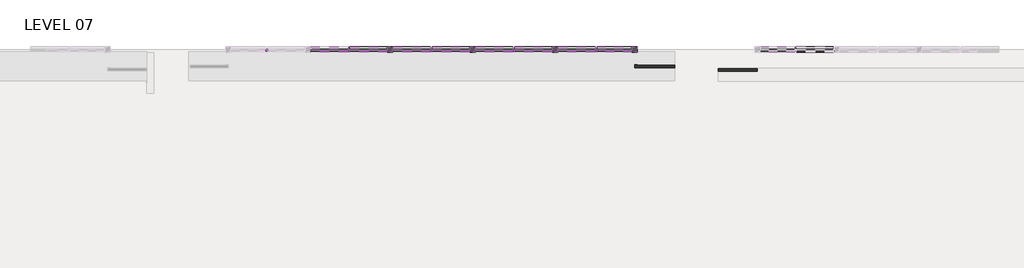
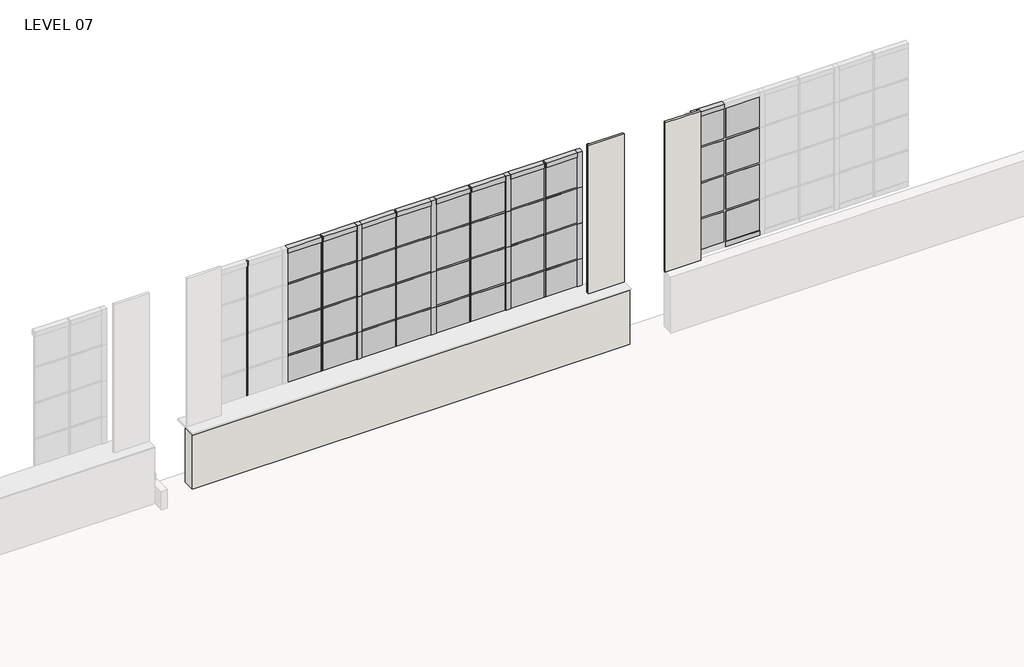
# One storey, part 9 of 15: 77 members, 40 plates, 4 walls.
"""IFC4 building model written with IfcOpenShell, lengths in millimetres."""

from ifc_helpers import new_model, si_unit, frame, origin, place, context, project, spatial, polyline, outline, extrude, faceted_brep, transform, mapped, element, save
from components import member_d9fe2114, member_fd592df6, member_78bb2ef1, member_40290cd5, member_ba51e770, member_6e5aab5d, member_bacafba3, member_a6d649dc, system_panel_glazed_84a10c8e, system_panel_glazed_44697018, system_panel_glazed_99b9b709, system_panel_glazed_bf1454fd, system_panel_glazed_f5a07ad7, system_panel_glazed_70237ed9

model = new_model("IFC4")

# Units and contexts
model_context = context("Model", 3, world=origin())
ifc_project = project(units=[si_unit("LENGTHUNIT", "METRE", prefix="MILLI")], contexts=[model_context])

# Site, building, storey
site = spatial("IfcSite", under=ifc_project)
building = spatial("IfcBuilding", under=site)
storey = spatial("IfcBuildingStorey", under=building, Name="LEVEL 07", Elevation=20802.6)

# Members
placement = place(None, origin())
member_shape = member_d9fe2114(model_context)
element("IfcMember", 1, ObjectType="Rectangular Mullion : 1\" x 1\" - Butt Joint", at=placement, inside=storey, context=model_context, shape_type="MappedRepresentation", body=[
    mapped(member_shape, transform((-27080.6521217, -412.75, 23342.6), x_axis=(0.0, 0.0, 1.0), y_axis=(0.0, -1.0, 0.0), z_axis=(1.0, 0.0, 0.0))),
])
element("IfcMember", 2, ObjectType="Rectangular Mullion : 1\" x 1\" - Butt Joint", at=placement, inside=storey, context=model_context, shape_type="MappedRepresentation", body=[
    mapped(member_shape, transform((-25932.5721217, -412.75, 23342.6), x_axis=(0.0, 0.0, 1.0), y_axis=(0.0, -1.0, 0.0), z_axis=(1.0, 0.0, 0.0))),
])
element("IfcMember", 3, ObjectType="Rectangular Mullion : 1\" x 1\" - Butt Joint", at=placement, inside=storey, context=model_context, shape_type="MappedRepresentation", body=[
    mapped(member_shape, transform((-24784.4921217, -412.75, 23342.6), x_axis=(0.0, 0.0, 1.0), y_axis=(0.0, -1.0, 0.0), z_axis=(1.0, 0.0, 0.0))),
])
element("IfcMember", 4, ObjectType="Rectangular Mullion : 1\" x 1\" - Butt Joint", at=placement, inside=storey, context=model_context, shape_type="MappedRepresentation", body=[
    mapped(member_shape, transform((-27629.2921217, -412.75, 23342.6), x_axis=(0.0, 0.0, 1.0), y_axis=(0.0, -1.0, 0.0), z_axis=(1.0, 0.0, 0.0))),
])
element("IfcMember", 5, ObjectType="Rectangular Mullion : 1\" x 1\" - Butt Joint", at=placement, inside=storey, context=model_context, shape_type="MappedRepresentation", body=[
    mapped(member_shape, transform((-26481.2121217, -412.75, 23342.6), x_axis=(0.0, 0.0, 1.0), y_axis=(0.0, -1.0, 0.0), z_axis=(1.0, 0.0, 0.0))),
])
element("IfcMember", 6, ObjectType="Rectangular Mullion : 1\" x 1\" - Butt Joint", at=placement, inside=storey, context=model_context, shape_type="MappedRepresentation", body=[
    mapped(member_shape, transform((-25333.1321217, -412.75, 23342.6), x_axis=(0.0, 0.0, 1.0), y_axis=(0.0, -1.0, 0.0), z_axis=(1.0, 0.0, 0.0))),
])
element("IfcMember", 7, ObjectType="Rectangular Mullion : 1\" x 1\" - Butt Joint", at=placement, inside=storey, context=model_context, shape_type="MappedRepresentation", body=[
    mapped(member_shape, transform((-24185.0521217, -412.75, 23342.6), x_axis=(0.0, 0.0, 1.0), y_axis=(0.0, -1.0, 0.0), z_axis=(1.0, 0.0, 0.0))),
])
element("IfcMember", 8, ObjectType="Rectangular Mullion : 1\" x 1\" - Butt Joint", at=placement, inside=storey, context=model_context, shape_type="MappedRepresentation", body=[
    mapped(member_shape, transform((-27080.6521217, -412.75, 22758.4), x_axis=(0.0, 0.0, 1.0), y_axis=(0.0, -1.0, 0.0), z_axis=(1.0, 0.0, 0.0))),
])
element("IfcMember", 9, ObjectType="Rectangular Mullion : 1\" x 1\" - Butt Joint", at=placement, inside=storey, context=model_context, shape_type="MappedRepresentation", body=[
    mapped(member_shape, transform((-25932.5721217, -412.75, 22758.4), x_axis=(0.0, 0.0, 1.0), y_axis=(0.0, -1.0, 0.0), z_axis=(1.0, 0.0, 0.0))),
])
element("IfcMember", 10, ObjectType="Rectangular Mullion : 1\" x 1\" - Butt Joint", at=placement, inside=storey, context=model_context, shape_type="MappedRepresentation", body=[
    mapped(member_shape, transform((-24784.4921217, -412.75, 22758.4), x_axis=(0.0, 0.0, 1.0), y_axis=(0.0, -1.0, 0.0), z_axis=(1.0, 0.0, 0.0))),
])
element("IfcMember", 11, ObjectType="Rectangular Mullion : 1\" x 1\" - Butt Joint", at=placement, inside=storey, context=model_context, shape_type="MappedRepresentation", body=[
    mapped(member_shape, transform((-27629.2921217, -412.75, 22758.4), x_axis=(0.0, 0.0, 1.0), y_axis=(0.0, -1.0, 0.0), z_axis=(1.0, 0.0, 0.0))),
])
element("IfcMember", 12, ObjectType="Rectangular Mullion : 1\" x 1\" - Butt Joint", at=placement, inside=storey, context=model_context, shape_type="MappedRepresentation", body=[
    mapped(member_shape, transform((-26481.2121217, -412.75, 22758.4), x_axis=(0.0, 0.0, 1.0), y_axis=(0.0, -1.0, 0.0), z_axis=(1.0, 0.0, 0.0))),
])
element("IfcMember", 13, ObjectType="Rectangular Mullion : 1\" x 1\" - Butt Joint", at=placement, inside=storey, context=model_context, shape_type="MappedRepresentation", body=[
    mapped(member_shape, transform((-25333.1321217, -412.75, 22758.4), x_axis=(0.0, 0.0, 1.0), y_axis=(0.0, -1.0, 0.0), z_axis=(1.0, 0.0, 0.0))),
])
element("IfcMember", 14, ObjectType="Rectangular Mullion : 1\" x 1\" - Butt Joint", at=placement, inside=storey, context=model_context, shape_type="MappedRepresentation", body=[
    mapped(member_shape, transform((-24185.0521217, -412.75, 22758.4), x_axis=(0.0, 0.0, 1.0), y_axis=(0.0, -1.0, 0.0), z_axis=(1.0, 0.0, 0.0))),
])
element("IfcMember", 15, ObjectType="Rectangular Mullion : 1\" x 1\" - Butt Joint", at=placement, inside=storey, context=model_context, shape_type="MappedRepresentation", body=[
    mapped(member_shape, transform((-27080.6521217, -412.75, 22174.2), x_axis=(0.0, 0.0, 1.0), y_axis=(0.0, -1.0, 0.0), z_axis=(1.0, 0.0, 0.0))),
])
element("IfcMember", 16, ObjectType="Rectangular Mullion : 1\" x 1\" - Butt Joint", at=placement, inside=storey, context=model_context, shape_type="MappedRepresentation", body=[
    mapped(member_shape, transform((-25932.5721217, -412.75, 22174.2), x_axis=(0.0, 0.0, 1.0), y_axis=(0.0, -1.0, 0.0), z_axis=(1.0, 0.0, 0.0))),
])
element("IfcMember", 17, ObjectType="Rectangular Mullion : 1\" x 1\" - Butt Joint", at=placement, inside=storey, context=model_context, shape_type="MappedRepresentation", body=[
    mapped(member_shape, transform((-24784.4921217, -412.75, 22174.2), x_axis=(0.0, 0.0, 1.0), y_axis=(0.0, -1.0, 0.0), z_axis=(1.0, 0.0, 0.0))),
])
element("IfcMember", 18, ObjectType="Rectangular Mullion : 1\" x 1\" - Butt Joint", at=placement, inside=storey, context=model_context, shape_type="MappedRepresentation", body=[
    mapped(member_shape, transform((-27629.2921217, -412.75, 22174.2), x_axis=(0.0, 0.0, 1.0), y_axis=(0.0, -1.0, 0.0), z_axis=(1.0, 0.0, 0.0))),
])
element("IfcMember", 19, ObjectType="Rectangular Mullion : 1\" x 1\" - Butt Joint", at=placement, inside=storey, context=model_context, shape_type="MappedRepresentation", body=[
    mapped(member_shape, transform((-26481.2121217, -412.75, 22174.2), x_axis=(0.0, 0.0, 1.0), y_axis=(0.0, -1.0, 0.0), z_axis=(1.0, 0.0, 0.0))),
])
element("IfcMember", 20, ObjectType="Rectangular Mullion : 1\" x 1\" - Butt Joint", at=placement, inside=storey, context=model_context, shape_type="MappedRepresentation", body=[
    mapped(member_shape, transform((-25333.1321217, -412.75, 22174.2), x_axis=(0.0, 0.0, 1.0), y_axis=(0.0, -1.0, 0.0), z_axis=(1.0, 0.0, 0.0))),
])
element("IfcMember", 21, ObjectType="Rectangular Mullion : 1\" x 1\" - Butt Joint", at=placement, inside=storey, context=model_context, shape_type="MappedRepresentation", body=[
    mapped(member_shape, transform((-24185.0521217, -412.75, 22174.2), x_axis=(0.0, 0.0, 1.0), y_axis=(0.0, -1.0, 0.0), z_axis=(1.0, 0.0, 0.0))),
])
member_2_shape = member_fd592df6(model_context)
element("IfcMember", 22, ObjectType="Rectangular Mullion : 1\" x 1\" - Butt Joint", at=placement, inside=storey, context=model_context, shape_type="MappedRepresentation", body=[
    mapped(member_2_shape, transform((-23674.5121217, -412.75, 23342.6), x_axis=(0.0, 0.0, 1.0), y_axis=(0.0, -1.0, 0.0), z_axis=(1.0, 0.0, 0.0))),
])
element("IfcMember", 23, ObjectType="Rectangular Mullion : 1\" x 1\" - Butt Joint", at=placement, inside=storey, context=model_context, shape_type="MappedRepresentation", body=[
    mapped(member_2_shape, transform((-23674.5121217, -412.75, 22758.4), x_axis=(0.0, 0.0, 1.0), y_axis=(0.0, -1.0, 0.0), z_axis=(1.0, 0.0, 0.0))),
])
element("IfcMember", 24, ObjectType="Rectangular Mullion : 1\" x 1\" - Butt Joint", at=placement, inside=storey, context=model_context, shape_type="MappedRepresentation", body=[
    mapped(member_2_shape, transform((-23674.5121217, -412.75, 22174.2), x_axis=(0.0, 0.0, 1.0), y_axis=(0.0, -1.0, 0.0), z_axis=(1.0, 0.0, 0.0))),
])
member_3_shape = member_78bb2ef1(model_context)
element("IfcMember", 25, ObjectType="Rectangular Mullion : 1\" x 1\" - Butt Joint", at=placement, inside=storey, context=model_context, shape_type="MappedRepresentation", body=[
    mapped(member_3_shape, transform((-24172.3521217, -412.75, 23342.6), x_axis=(1.0, 0.0, 0.0), y_axis=(0.0, -1.0, 0.0), z_axis=(0.0, 0.0, -1.0))),
])
element("IfcMember", 26, ObjectType="Rectangular Mullion : 1\" x 1\" - Butt Joint", at=placement, inside=storey, context=model_context, shape_type="MappedRepresentation", body=[
    mapped(member_3_shape, transform((-25320.4321217, -412.75, 23342.6), x_axis=(1.0, 0.0, 0.0), y_axis=(0.0, -1.0, 0.0), z_axis=(0.0, 0.0, -1.0))),
])
element("IfcMember", 27, ObjectType="Rectangular Mullion : 1\" x 1\" - Butt Joint", at=placement, inside=storey, context=model_context, shape_type="MappedRepresentation", body=[
    mapped(member_3_shape, transform((-26468.5121217, -412.75, 23342.6), x_axis=(1.0, 0.0, 0.0), y_axis=(0.0, -1.0, 0.0), z_axis=(0.0, 0.0, -1.0))),
])
element("IfcMember", 28, ObjectType="Rectangular Mullion : 1\" x 1\" - Butt Joint", at=placement, inside=storey, context=model_context, shape_type="MappedRepresentation", body=[
    mapped(member_3_shape, transform((-27616.5921217, -412.75, 23342.6), x_axis=(1.0, 0.0, 0.0), y_axis=(0.0, -1.0, 0.0), z_axis=(0.0, 0.0, -1.0))),
])
element("IfcMember", 29, ObjectType="Rectangular Mullion : 1\" x 1\" - Butt Joint", at=placement, inside=storey, context=model_context, shape_type="MappedRepresentation", body=[
    mapped(member_3_shape, transform((-28764.6721217, -412.75, 23342.6), x_axis=(1.0, 0.0, 0.0), y_axis=(0.0, -1.0, 0.0), z_axis=(0.0, 0.0, -1.0))),
])
element("IfcMember", 30, ObjectType="Rectangular Mullion : 1\" x 1\" - Butt Joint", at=placement, inside=storey, context=model_context, shape_type="MappedRepresentation", body=[
    mapped(member_3_shape, transform((-24172.3521217, -412.75, 22174.2), x_axis=(1.0, 0.0, 0.0), y_axis=(0.0, -1.0, 0.0), z_axis=(0.0, 0.0, -1.0))),
])
element("IfcMember", 31, ObjectType="Rectangular Mullion : 1\" x 1\" - Butt Joint", at=placement, inside=storey, context=model_context, shape_type="MappedRepresentation", body=[
    mapped(member_3_shape, transform((-24172.3521217, -412.75, 22758.4), x_axis=(1.0, 0.0, 0.0), y_axis=(0.0, -1.0, 0.0), z_axis=(0.0, 0.0, -1.0))),
])
element("IfcMember", 32, ObjectType="Rectangular Mullion : 1\" x 1\" - Butt Joint", at=placement, inside=storey, context=model_context, shape_type="MappedRepresentation", body=[
    mapped(member_3_shape, transform((-25320.4321217, -412.75, 22174.2), x_axis=(1.0, 0.0, 0.0), y_axis=(0.0, -1.0, 0.0), z_axis=(0.0, 0.0, -1.0))),
])
element("IfcMember", 33, ObjectType="Rectangular Mullion : 1\" x 1\" - Butt Joint", at=placement, inside=storey, context=model_context, shape_type="MappedRepresentation", body=[
    mapped(member_3_shape, transform((-25320.4321217, -412.75, 22758.4), x_axis=(1.0, 0.0, 0.0), y_axis=(0.0, -1.0, 0.0), z_axis=(0.0, 0.0, -1.0))),
])
element("IfcMember", 34, ObjectType="Rectangular Mullion : 1\" x 1\" - Butt Joint", at=placement, inside=storey, context=model_context, shape_type="MappedRepresentation", body=[
    mapped(member_3_shape, transform((-26468.5121217, -412.75, 22174.2), x_axis=(1.0, 0.0, 0.0), y_axis=(0.0, -1.0, 0.0), z_axis=(0.0, 0.0, -1.0))),
])
element("IfcMember", 35, ObjectType="Rectangular Mullion : 1\" x 1\" - Butt Joint", at=placement, inside=storey, context=model_context, shape_type="MappedRepresentation", body=[
    mapped(member_3_shape, transform((-26468.5121217, -412.75, 22758.4), x_axis=(1.0, 0.0, 0.0), y_axis=(0.0, -1.0, 0.0), z_axis=(0.0, 0.0, -1.0))),
])
element("IfcMember", 36, ObjectType="Rectangular Mullion : 1\" x 1\" - Butt Joint", at=placement, inside=storey, context=model_context, shape_type="MappedRepresentation", body=[
    mapped(member_3_shape, transform((-27616.5921217, -412.75, 22174.2), x_axis=(1.0, 0.0, 0.0), y_axis=(0.0, -1.0, 0.0), z_axis=(0.0, 0.0, -1.0))),
])
element("IfcMember", 37, ObjectType="Rectangular Mullion : 1\" x 1\" - Butt Joint", at=placement, inside=storey, context=model_context, shape_type="MappedRepresentation", body=[
    mapped(member_3_shape, transform((-27616.5921217, -412.75, 22758.4), x_axis=(1.0, 0.0, 0.0), y_axis=(0.0, -1.0, 0.0), z_axis=(0.0, 0.0, -1.0))),
])
element("IfcMember", 38, ObjectType="Rectangular Mullion : 1\" x 1\" - Butt Joint", at=placement, inside=storey, context=model_context, shape_type="MappedRepresentation", body=[
    mapped(member_3_shape, transform((-28764.6721217, -412.75, 22174.2), x_axis=(1.0, 0.0, 0.0), y_axis=(0.0, -1.0, 0.0), z_axis=(0.0, 0.0, -1.0))),
])
element("IfcMember", 39, ObjectType="Rectangular Mullion : 1\" x 1\" - Butt Joint", at=placement, inside=storey, context=model_context, shape_type="MappedRepresentation", body=[
    mapped(member_3_shape, transform((-28764.6721217, -412.75, 22758.4), x_axis=(1.0, 0.0, 0.0), y_axis=(0.0, -1.0, 0.0), z_axis=(0.0, 0.0, -1.0))),
])
element("IfcMember", 40, ObjectType="Rectangular Mullion : 1\" x 1\" - Butt Joint", at=placement, inside=storey, context=model_context, shape_type="MappedRepresentation", body=[
    mapped(member_3_shape, transform((-24172.3521217, -412.75, 21590.0), x_axis=(1.0, 0.0, 0.0), y_axis=(0.0, -1.0, 0.0), z_axis=(0.0, 0.0, -1.0))),
])
element("IfcMember", 41, ObjectType="Rectangular Mullion : 1\" x 1\" - Butt Joint", at=placement, inside=storey, context=model_context, shape_type="MappedRepresentation", body=[
    mapped(member_3_shape, transform((-25320.4321217, -412.75, 21590.0), x_axis=(1.0, 0.0, 0.0), y_axis=(0.0, -1.0, 0.0), z_axis=(0.0, 0.0, -1.0))),
])
element("IfcMember", 42, ObjectType="Rectangular Mullion : 1\" x 1\" - Butt Joint", at=placement, inside=storey, context=model_context, shape_type="MappedRepresentation", body=[
    mapped(member_3_shape, transform((-26468.5121217, -412.75, 21590.0), x_axis=(1.0, 0.0, 0.0), y_axis=(0.0, -1.0, 0.0), z_axis=(0.0, 0.0, -1.0))),
])
element("IfcMember", 43, ObjectType="Rectangular Mullion : 1\" x 1\" - Butt Joint", at=placement, inside=storey, context=model_context, shape_type="MappedRepresentation", body=[
    mapped(member_3_shape, transform((-27616.5921217, -412.75, 21590.0), x_axis=(1.0, 0.0, 0.0), y_axis=(0.0, -1.0, 0.0), z_axis=(0.0, 0.0, -1.0))),
])
element("IfcMember", 44, ObjectType="Rectangular Mullion : 1\" x 1\" - Butt Joint", at=placement, inside=storey, context=model_context, shape_type="MappedRepresentation", body=[
    mapped(member_3_shape, transform((-28764.6721217, -412.75, 21590.0), x_axis=(1.0, 0.0, 0.0), y_axis=(0.0, -1.0, 0.0), z_axis=(0.0, 0.0, -1.0))),
])
member_4_shape = member_40290cd5(model_context)
element("IfcMember", 45, ObjectType="Rectangular Mullion : 3\" x 3\" Window Jamb", at=placement, inside=storey, context=model_context, shape_type="MappedRepresentation", body=[
    mapped(member_4_shape, transform((-21405.0571519, -412.75, 23926.8), x_axis=(0.0, 0.0, 1.0), y_axis=(0.0, -1.0, 0.0), z_axis=(1.0, 0.0, 0.0))),
])
member_5_shape = member_ba51e770(model_context)
element("IfcMember", 46, ObjectType="Rectangular Mullion : 3\" x 3\" Window Jamb", at=placement, inside=storey, context=model_context, shape_type="MappedRepresentation", body=[
    mapped(member_5_shape, transform((-23674.5121217, -412.75, 23926.8), x_axis=(0.0, 0.0, 1.0), y_axis=(0.0, -1.0, 0.0), z_axis=(1.0, 0.0, 0.0))),
])
member_6_shape = member_6e5aab5d(model_context)
element("IfcMember", 47, ObjectType="Rectangular Mullion : 3\" x 3\" Window Jamb", at=placement, inside=storey, context=model_context, shape_type="MappedRepresentation", body=[
    mapped(member_6_shape, transform((-27629.2921217, -412.75, 23926.8), x_axis=(0.0, 0.0, 1.0), y_axis=(0.0, -1.0, 0.0), z_axis=(1.0, 0.0, 0.0))),
])
element("IfcMember", 48, ObjectType="Rectangular Mullion : 3\" x 3\" Window Jamb", at=placement, inside=storey, context=model_context, shape_type="MappedRepresentation", body=[
    mapped(member_6_shape, transform((-26481.2121217, -412.75, 23926.8), x_axis=(0.0, 0.0, 1.0), y_axis=(0.0, -1.0, 0.0), z_axis=(1.0, 0.0, 0.0))),
])
element("IfcMember", 49, ObjectType="Rectangular Mullion : 3\" x 3\" Window Jamb", at=placement, inside=storey, context=model_context, shape_type="MappedRepresentation", body=[
    mapped(member_6_shape, transform((-25333.1321217, -412.75, 23926.8), x_axis=(0.0, 0.0, 1.0), y_axis=(0.0, -1.0, 0.0), z_axis=(1.0, 0.0, 0.0))),
])
element("IfcMember", 50, ObjectType="Rectangular Mullion : 3\" x 3\" Window Jamb", at=placement, inside=storey, context=model_context, shape_type="MappedRepresentation", body=[
    mapped(member_6_shape, transform((-24185.0521217, -412.75, 23926.8), x_axis=(0.0, 0.0, 1.0), y_axis=(0.0, -1.0, 0.0), z_axis=(1.0, 0.0, 0.0))),
])
element("IfcMember", 51, ObjectType="Rectangular Mullion : 3\" x 3\" Window Jamb", at=placement, inside=storey, context=model_context, shape_type="MappedRepresentation", body=[
    mapped(member_6_shape, transform((-27080.6521217, -412.75, 23926.8), x_axis=(0.0, 0.0, 1.0), y_axis=(0.0, -1.0, 0.0), z_axis=(1.0, 0.0, 0.0))),
])
element("IfcMember", 52, ObjectType="Rectangular Mullion : 3\" x 3\" Window Jamb", at=placement, inside=storey, context=model_context, shape_type="MappedRepresentation", body=[
    mapped(member_6_shape, transform((-25932.5721217, -412.75, 23926.8), x_axis=(0.0, 0.0, 1.0), y_axis=(0.0, -1.0, 0.0), z_axis=(1.0, 0.0, 0.0))),
])
element("IfcMember", 53, ObjectType="Rectangular Mullion : 3\" x 3\" Window Jamb", at=placement, inside=storey, context=model_context, shape_type="MappedRepresentation", body=[
    mapped(member_6_shape, transform((-24784.4921217, -412.75, 23926.8), x_axis=(0.0, 0.0, 1.0), y_axis=(0.0, -1.0, 0.0), z_axis=(1.0, 0.0, 0.0))),
])
element("IfcMember", 54, ObjectType="Rectangular Mullion : 3\" x 3\" Window Jamb", at=placement, inside=storey, context=model_context, shape_type="MappedRepresentation", body=[
    mapped(member_6_shape, transform((-21379.6571519, -412.75, 21590.0), x_axis=(0.0, 0.0, -1.0), y_axis=(0.0, -1.0, 0.0), z_axis=(-1.0, 0.0, 0.0))),
])
element("IfcMember", 55, ObjectType="Rectangular Mullion : 3\" x 3\" Window Jamb", at=placement, inside=storey, context=model_context, shape_type="MappedRepresentation", body=[
    mapped(member_6_shape, transform((-27603.8921217, -412.75, 21590.0), x_axis=(0.0, 0.0, -1.0), y_axis=(0.0, -1.0, 0.0), z_axis=(-1.0, 0.0, 0.0))),
])
element("IfcMember", 56, ObjectType="Rectangular Mullion : 3\" x 3\" Window Jamb", at=placement, inside=storey, context=model_context, shape_type="MappedRepresentation", body=[
    mapped(member_6_shape, transform((-26455.8121217, -412.75, 21590.0), x_axis=(0.0, 0.0, -1.0), y_axis=(0.0, -1.0, 0.0), z_axis=(-1.0, 0.0, 0.0))),
])
element("IfcMember", 57, ObjectType="Rectangular Mullion : 3\" x 3\" Window Jamb", at=placement, inside=storey, context=model_context, shape_type="MappedRepresentation", body=[
    mapped(member_6_shape, transform((-25307.7321217, -412.75, 21590.0), x_axis=(0.0, 0.0, -1.0), y_axis=(0.0, -1.0, 0.0), z_axis=(-1.0, 0.0, 0.0))),
])
element("IfcMember", 58, ObjectType="Rectangular Mullion : 3\" x 3\" Window Jamb", at=placement, inside=storey, context=model_context, shape_type="MappedRepresentation", body=[
    mapped(member_6_shape, transform((-27004.4521217, -412.75, 21590.0), x_axis=(0.0, 0.0, -1.0), y_axis=(0.0, -1.0, 0.0), z_axis=(-1.0, 0.0, 0.0))),
])
element("IfcMember", 59, ObjectType="Rectangular Mullion : 3\" x 3\" Window Jamb", at=placement, inside=storey, context=model_context, shape_type="MappedRepresentation", body=[
    mapped(member_6_shape, transform((-25856.3721217, -412.75, 21590.0), x_axis=(0.0, 0.0, -1.0), y_axis=(0.0, -1.0, 0.0), z_axis=(-1.0, 0.0, 0.0))),
])
element("IfcMember", 60, ObjectType="Rectangular Mullion : 3\" x 3\" Window Jamb", at=placement, inside=storey, context=model_context, shape_type="MappedRepresentation", body=[
    mapped(member_6_shape, transform((-24708.2921217, -412.75, 21590.0), x_axis=(0.0, 0.0, -1.0), y_axis=(0.0, -1.0, 0.0), z_axis=(-1.0, 0.0, 0.0))),
])
element("IfcMember", 61, ObjectType="Rectangular Mullion : 3\" x 3\" Window Jamb", at=placement, inside=storey, context=model_context, shape_type="MappedRepresentation", body=[
    mapped(member_5_shape, transform((-24159.6521217, -412.75, 21590.0), x_axis=(0.0, 0.0, -1.0), y_axis=(0.0, -1.0, 0.0), z_axis=(-1.0, 0.0, 0.0))),
])
member_7_shape = member_bacafba3(model_context)
element("IfcMember", 62, ObjectType="Rectangular Mullion : 3\" x 3\" Window Jamb", at=placement, inside=storey, context=model_context, shape_type="MappedRepresentation", body=[
    mapped(member_7_shape, transform((-24746.3921217, -412.75, 23342.6), x_axis=(1.0, 0.0, 0.0), y_axis=(0.0, -1.0, 0.0), z_axis=(0.0, 0.0, -1.0))),
])
element("IfcMember", 63, ObjectType="Rectangular Mullion : 3\" x 3\" Window Jamb", at=placement, inside=storey, context=model_context, shape_type="MappedRepresentation", body=[
    mapped(member_7_shape, transform((-25894.4721217, -412.75, 23342.6), x_axis=(1.0, 0.0, 0.0), y_axis=(0.0, -1.0, 0.0), z_axis=(0.0, 0.0, -1.0))),
])
element("IfcMember", 64, ObjectType="Rectangular Mullion : 3\" x 3\" Window Jamb", at=placement, inside=storey, context=model_context, shape_type="MappedRepresentation", body=[
    mapped(member_7_shape, transform((-27042.5521217, -412.75, 23342.6), x_axis=(1.0, 0.0, 0.0), y_axis=(0.0, -1.0, 0.0), z_axis=(0.0, 0.0, -1.0))),
])
element("IfcMember", 65, ObjectType="Rectangular Mullion : 3\" x 3\" Window Jamb", at=placement, inside=storey, context=model_context, shape_type="MappedRepresentation", body=[
    mapped(member_7_shape, transform((-24746.3921217, -412.75, 22174.2), x_axis=(1.0, 0.0, 0.0), y_axis=(0.0, -1.0, 0.0), z_axis=(0.0, 0.0, -1.0))),
])
element("IfcMember", 66, ObjectType="Rectangular Mullion : 3\" x 3\" Window Jamb", at=placement, inside=storey, context=model_context, shape_type="MappedRepresentation", body=[
    mapped(member_7_shape, transform((-24746.3921217, -412.75, 22758.4), x_axis=(1.0, 0.0, 0.0), y_axis=(0.0, -1.0, 0.0), z_axis=(0.0, 0.0, -1.0))),
])
element("IfcMember", 67, ObjectType="Rectangular Mullion : 3\" x 3\" Window Jamb", at=placement, inside=storey, context=model_context, shape_type="MappedRepresentation", body=[
    mapped(member_7_shape, transform((-25894.4721217, -412.75, 22174.2), x_axis=(1.0, 0.0, 0.0), y_axis=(0.0, -1.0, 0.0), z_axis=(0.0, 0.0, -1.0))),
])
element("IfcMember", 68, ObjectType="Rectangular Mullion : 3\" x 3\" Window Jamb", at=placement, inside=storey, context=model_context, shape_type="MappedRepresentation", body=[
    mapped(member_7_shape, transform((-25894.4721217, -412.75, 22758.4), x_axis=(1.0, 0.0, 0.0), y_axis=(0.0, -1.0, 0.0), z_axis=(0.0, 0.0, -1.0))),
])
element("IfcMember", 69, ObjectType="Rectangular Mullion : 3\" x 3\" Window Jamb", at=placement, inside=storey, context=model_context, shape_type="MappedRepresentation", body=[
    mapped(member_7_shape, transform((-27042.5521217, -412.75, 22174.2), x_axis=(1.0, 0.0, 0.0), y_axis=(0.0, -1.0, 0.0), z_axis=(0.0, 0.0, -1.0))),
])
element("IfcMember", 70, ObjectType="Rectangular Mullion : 3\" x 3\" Window Jamb", at=placement, inside=storey, context=model_context, shape_type="MappedRepresentation", body=[
    mapped(member_7_shape, transform((-27042.5521217, -412.75, 22758.4), x_axis=(1.0, 0.0, 0.0), y_axis=(0.0, -1.0, 0.0), z_axis=(0.0, 0.0, -1.0))),
])
element("IfcMember", 71, ObjectType="Rectangular Mullion : 3\" x 3\" Window Jamb", at=placement, inside=storey, context=model_context, shape_type="MappedRepresentation", body=[
    mapped(member_7_shape, transform((-24746.3921217, -412.75, 21590.0), x_axis=(1.0, 0.0, 0.0), y_axis=(0.0, -1.0, 0.0), z_axis=(0.0, 0.0, -1.0))),
])
element("IfcMember", 72, ObjectType="Rectangular Mullion : 3\" x 3\" Window Jamb", at=placement, inside=storey, context=model_context, shape_type="MappedRepresentation", body=[
    mapped(member_7_shape, transform((-25894.4721217, -412.75, 21590.0), x_axis=(1.0, 0.0, 0.0), y_axis=(0.0, -1.0, 0.0), z_axis=(0.0, 0.0, -1.0))),
])
element("IfcMember", 73, ObjectType="Rectangular Mullion : 3\" x 3\" Window Jamb", at=placement, inside=storey, context=model_context, shape_type="MappedRepresentation", body=[
    mapped(member_7_shape, transform((-27042.5521217, -412.75, 21590.0), x_axis=(1.0, 0.0, 0.0), y_axis=(0.0, -1.0, 0.0), z_axis=(0.0, 0.0, -1.0))),
])
member_8_shape = member_a6d649dc(model_context)
element("IfcMember", 74, ObjectType="Rectangular Mullion : 3\" x 3\" Window Jamb", at=placement, inside=storey, context=model_context, shape_type="MappedRepresentation", body=[
    mapped(member_8_shape, transform((-23598.3121217, -412.75, 23342.6), x_axis=(1.0, 0.0, 0.0), y_axis=(0.0, -1.0, 0.0), z_axis=(0.0, 0.0, -1.0))),
])
element("IfcMember", 75, ObjectType="Rectangular Mullion : 3\" x 3\" Window Jamb", at=placement, inside=storey, context=model_context, shape_type="MappedRepresentation", body=[
    mapped(member_8_shape, transform((-23598.3121217, -412.75, 22174.2), x_axis=(1.0, 0.0, 0.0), y_axis=(0.0, -1.0, 0.0), z_axis=(0.0, 0.0, -1.0))),
])
element("IfcMember", 76, ObjectType="Rectangular Mullion : 3\" x 3\" Window Jamb", at=placement, inside=storey, context=model_context, shape_type="MappedRepresentation", body=[
    mapped(member_8_shape, transform((-23598.3121217, -412.75, 22758.4), x_axis=(1.0, 0.0, 0.0), y_axis=(0.0, -1.0, 0.0), z_axis=(0.0, 0.0, -1.0))),
])
element("IfcMember", 77, ObjectType="Rectangular Mullion : 3\" x 3\" Window Jamb", at=placement, inside=storey, context=model_context, shape_type="MappedRepresentation", body=[
    mapped(member_8_shape, transform((-23598.3121217, -412.75, 21590.0), x_axis=(1.0, 0.0, 0.0), y_axis=(0.0, -1.0, 0.0), z_axis=(0.0, 0.0, -1.0))),
])

# Plates
system_panel_glazed_shape = system_panel_glazed_84a10c8e(model_context)
element("IfcPlate", 78, ObjectType="System Panel : Glazed", at=placement, inside=storey, context=model_context, shape_type="MappedRepresentation", body=[
    mapped(system_panel_glazed_shape, transform((-23917.0821217, -412.75, 21666.2), x_axis=(1.0, 0.0, 0.0), y_axis=(0.0, 1.0, 0.0), z_axis=(0.0, 0.0, 1.0))),
])
element("IfcPlate", 79, ObjectType="System Panel : Glazed", at=placement, inside=storey, context=model_context, shape_type="MappedRepresentation", body=[
    mapped(system_panel_glazed_shape, transform((-23917.0821217, -412.75, 23355.3), x_axis=(1.0, 0.0, 0.0), y_axis=(0.0, 1.0, 0.0), z_axis=(0.0, 0.0, 1.0))),
])
system_panel_glazed_2_shape = system_panel_glazed_44697018(model_context)
element("IfcPlate", 80, ObjectType="System Panel : Glazed", at=placement, inside=storey, context=model_context, shape_type="MappedRepresentation", body=[
    mapped(system_panel_glazed_2_shape, transform((-21118.0371519, -412.75, 21666.2), x_axis=(1.0, 0.0, 0.0), y_axis=(0.0, 1.0, 0.0), z_axis=(0.0, 0.0, 1.0))),
])
element("IfcPlate", 81, ObjectType="System Panel : Glazed", at=placement, inside=storey, context=model_context, shape_type="MappedRepresentation", body=[
    mapped(system_panel_glazed_2_shape, transform((-21118.0371519, -412.75, 23355.3), x_axis=(1.0, 0.0, 0.0), y_axis=(0.0, 1.0, 0.0), z_axis=(0.0, 0.0, 1.0))),
])
element("IfcPlate", 82, ObjectType="System Panel : Glazed", at=placement, inside=storey, context=model_context, shape_type="MappedRepresentation", body=[
    mapped(system_panel_glazed_2_shape, transform((-24446.6721217, -412.75, 21666.2), x_axis=(1.0, 0.0, 0.0), y_axis=(0.0, 1.0, 0.0), z_axis=(0.0, 0.0, 1.0))),
])
element("IfcPlate", 83, ObjectType="System Panel : Glazed", at=placement, inside=storey, context=model_context, shape_type="MappedRepresentation", body=[
    mapped(system_panel_glazed_2_shape, transform((-25594.7521217, -412.75, 21666.2), x_axis=(1.0, 0.0, 0.0), y_axis=(0.0, 1.0, 0.0), z_axis=(0.0, 0.0, 1.0))),
])
element("IfcPlate", 84, ObjectType="System Panel : Glazed", at=placement, inside=storey, context=model_context, shape_type="MappedRepresentation", body=[
    mapped(system_panel_glazed_2_shape, transform((-26742.8321217, -412.75, 21666.2), x_axis=(1.0, 0.0, 0.0), y_axis=(0.0, 1.0, 0.0), z_axis=(0.0, 0.0, 1.0))),
])
element("IfcPlate", 85, ObjectType="System Panel : Glazed", at=placement, inside=storey, context=model_context, shape_type="MappedRepresentation", body=[
    mapped(system_panel_glazed_2_shape, transform((-27890.9121217, -412.75, 21666.2), x_axis=(1.0, 0.0, 0.0), y_axis=(0.0, 1.0, 0.0), z_axis=(0.0, 0.0, 1.0))),
])
element("IfcPlate", 86, ObjectType="System Panel : Glazed", at=placement, inside=storey, context=model_context, shape_type="MappedRepresentation", body=[
    mapped(system_panel_glazed_2_shape, transform((-27890.9121217, -412.75, 23355.3), x_axis=(1.0, 0.0, 0.0), y_axis=(0.0, 1.0, 0.0), z_axis=(0.0, 0.0, 1.0))),
])
element("IfcPlate", 87, ObjectType="System Panel : Glazed", at=placement, inside=storey, context=model_context, shape_type="MappedRepresentation", body=[
    mapped(system_panel_glazed_2_shape, transform((-26742.8321217, -412.75, 23355.3), x_axis=(1.0, 0.0, 0.0), y_axis=(0.0, 1.0, 0.0), z_axis=(0.0, 0.0, 1.0))),
])
element("IfcPlate", 88, ObjectType="System Panel : Glazed", at=placement, inside=storey, context=model_context, shape_type="MappedRepresentation", body=[
    mapped(system_panel_glazed_2_shape, transform((-25594.7521217, -412.75, 23355.3), x_axis=(1.0, 0.0, 0.0), y_axis=(0.0, 1.0, 0.0), z_axis=(0.0, 0.0, 1.0))),
])
element("IfcPlate", 89, ObjectType="System Panel : Glazed", at=placement, inside=storey, context=model_context, shape_type="MappedRepresentation", body=[
    mapped(system_panel_glazed_2_shape, transform((-24446.6721217, -412.75, 23355.3), x_axis=(1.0, 0.0, 0.0), y_axis=(0.0, 1.0, 0.0), z_axis=(0.0, 0.0, 1.0))),
])
element("IfcPlate", 90, ObjectType="System Panel : Glazed", at=placement, inside=storey, context=model_context, shape_type="MappedRepresentation", body=[
    mapped(system_panel_glazed_2_shape, transform((-25046.1121217, -412.75, 21666.2), x_axis=(1.0, 0.0, 0.0), y_axis=(0.0, 1.0, 0.0), z_axis=(0.0, 0.0, 1.0))),
])
element("IfcPlate", 91, ObjectType="System Panel : Glazed", at=placement, inside=storey, context=model_context, shape_type="MappedRepresentation", body=[
    mapped(system_panel_glazed_2_shape, transform((-25046.1121217, -412.75, 23355.3), x_axis=(1.0, 0.0, 0.0), y_axis=(0.0, 1.0, 0.0), z_axis=(0.0, 0.0, 1.0))),
])
element("IfcPlate", 92, ObjectType="System Panel : Glazed", at=placement, inside=storey, context=model_context, shape_type="MappedRepresentation", body=[
    mapped(system_panel_glazed_2_shape, transform((-26194.1921217, -412.75, 21666.2), x_axis=(1.0, 0.0, 0.0), y_axis=(0.0, 1.0, 0.0), z_axis=(0.0, 0.0, 1.0))),
])
element("IfcPlate", 93, ObjectType="System Panel : Glazed", at=placement, inside=storey, context=model_context, shape_type="MappedRepresentation", body=[
    mapped(system_panel_glazed_2_shape, transform((-26194.1921217, -412.75, 23355.3), x_axis=(1.0, 0.0, 0.0), y_axis=(0.0, 1.0, 0.0), z_axis=(0.0, 0.0, 1.0))),
])
element("IfcPlate", 94, ObjectType="System Panel : Glazed", at=placement, inside=storey, context=model_context, shape_type="MappedRepresentation", body=[
    mapped(system_panel_glazed_2_shape, transform((-27342.2721217, -412.75, 21666.2), x_axis=(1.0, 0.0, 0.0), y_axis=(0.0, 1.0, 0.0), z_axis=(0.0, 0.0, 1.0))),
])
element("IfcPlate", 95, ObjectType="System Panel : Glazed", at=placement, inside=storey, context=model_context, shape_type="MappedRepresentation", body=[
    mapped(system_panel_glazed_2_shape, transform((-27342.2721217, -412.75, 23355.3), x_axis=(1.0, 0.0, 0.0), y_axis=(0.0, 1.0, 0.0), z_axis=(0.0, 0.0, 1.0))),
])
system_panel_glazed_3_shape = system_panel_glazed_99b9b709(model_context)
element("IfcPlate", 96, ObjectType="System Panel : Glazed", at=placement, inside=storey, context=model_context, shape_type="MappedRepresentation", body=[
    mapped(system_panel_glazed_3_shape, transform((-23917.0821217, -412.75, 22186.9), x_axis=(1.0, 0.0, 0.0), y_axis=(0.0, 1.0, 0.0), z_axis=(0.0, 0.0, 1.0))),
])
element("IfcPlate", 97, ObjectType="System Panel : Glazed", at=placement, inside=storey, context=model_context, shape_type="MappedRepresentation", body=[
    mapped(system_panel_glazed_3_shape, transform((-23917.0821217, -412.75, 22771.1), x_axis=(1.0, 0.0, 0.0), y_axis=(0.0, 1.0, 0.0), z_axis=(0.0, 0.0, 1.0))),
])
system_panel_glazed_4_shape = system_panel_glazed_bf1454fd(model_context)
element("IfcPlate", 98, ObjectType="System Panel : Glazed", at=placement, inside=storey, context=model_context, shape_type="MappedRepresentation", body=[
    mapped(system_panel_glazed_4_shape, transform((-21118.0371519, -412.75, 22186.9), x_axis=(1.0, 0.0, 0.0), y_axis=(0.0, 1.0, 0.0), z_axis=(0.0, 0.0, 1.0))),
])
element("IfcPlate", 99, ObjectType="System Panel : Glazed", at=placement, inside=storey, context=model_context, shape_type="MappedRepresentation", body=[
    mapped(system_panel_glazed_4_shape, transform((-21118.0371519, -412.75, 22771.1), x_axis=(1.0, 0.0, 0.0), y_axis=(0.0, 1.0, 0.0), z_axis=(0.0, 0.0, 1.0))),
])
element("IfcPlate", 100, ObjectType="System Panel : Glazed", at=placement, inside=storey, context=model_context, shape_type="MappedRepresentation", body=[
    mapped(system_panel_glazed_4_shape, transform((-27890.9121217, -412.75, 22771.1), x_axis=(1.0, 0.0, 0.0), y_axis=(0.0, 1.0, 0.0), z_axis=(0.0, 0.0, 1.0))),
])
element("IfcPlate", 101, ObjectType="System Panel : Glazed", at=placement, inside=storey, context=model_context, shape_type="MappedRepresentation", body=[
    mapped(system_panel_glazed_4_shape, transform((-26742.8321217, -412.75, 22771.1), x_axis=(1.0, 0.0, 0.0), y_axis=(0.0, 1.0, 0.0), z_axis=(0.0, 0.0, 1.0))),
])
element("IfcPlate", 102, ObjectType="System Panel : Glazed", at=placement, inside=storey, context=model_context, shape_type="MappedRepresentation", body=[
    mapped(system_panel_glazed_4_shape, transform((-25594.7521217, -412.75, 22771.1), x_axis=(1.0, 0.0, 0.0), y_axis=(0.0, 1.0, 0.0), z_axis=(0.0, 0.0, 1.0))),
])
element("IfcPlate", 103, ObjectType="System Panel : Glazed", at=placement, inside=storey, context=model_context, shape_type="MappedRepresentation", body=[
    mapped(system_panel_glazed_4_shape, transform((-24446.6721217, -412.75, 22771.1), x_axis=(1.0, 0.0, 0.0), y_axis=(0.0, 1.0, 0.0), z_axis=(0.0, 0.0, 1.0))),
])
element("IfcPlate", 104, ObjectType="System Panel : Glazed", at=placement, inside=storey, context=model_context, shape_type="MappedRepresentation", body=[
    mapped(system_panel_glazed_4_shape, transform((-27890.9121217, -412.75, 22186.9), x_axis=(1.0, 0.0, 0.0), y_axis=(0.0, 1.0, 0.0), z_axis=(0.0, 0.0, 1.0))),
])
element("IfcPlate", 105, ObjectType="System Panel : Glazed", at=placement, inside=storey, context=model_context, shape_type="MappedRepresentation", body=[
    mapped(system_panel_glazed_4_shape, transform((-26742.8321217, -412.75, 22186.9), x_axis=(1.0, 0.0, 0.0), y_axis=(0.0, 1.0, 0.0), z_axis=(0.0, 0.0, 1.0))),
])
element("IfcPlate", 106, ObjectType="System Panel : Glazed", at=placement, inside=storey, context=model_context, shape_type="MappedRepresentation", body=[
    mapped(system_panel_glazed_4_shape, transform((-25594.7521217, -412.75, 22186.9), x_axis=(1.0, 0.0, 0.0), y_axis=(0.0, 1.0, 0.0), z_axis=(0.0, 0.0, 1.0))),
])
element("IfcPlate", 107, ObjectType="System Panel : Glazed", at=placement, inside=storey, context=model_context, shape_type="MappedRepresentation", body=[
    mapped(system_panel_glazed_4_shape, transform((-24446.6721217, -412.75, 22186.9), x_axis=(1.0, 0.0, 0.0), y_axis=(0.0, 1.0, 0.0), z_axis=(0.0, 0.0, 1.0))),
])
element("IfcPlate", 108, ObjectType="System Panel : Glazed", at=placement, inside=storey, context=model_context, shape_type="MappedRepresentation", body=[
    mapped(system_panel_glazed_4_shape, transform((-25046.1121217, -412.75, 22186.9), x_axis=(1.0, 0.0, 0.0), y_axis=(0.0, 1.0, 0.0), z_axis=(0.0, 0.0, 1.0))),
])
element("IfcPlate", 109, ObjectType="System Panel : Glazed", at=placement, inside=storey, context=model_context, shape_type="MappedRepresentation", body=[
    mapped(system_panel_glazed_4_shape, transform((-25046.1121217, -412.75, 22771.1), x_axis=(1.0, 0.0, 0.0), y_axis=(0.0, 1.0, 0.0), z_axis=(0.0, 0.0, 1.0))),
])
element("IfcPlate", 110, ObjectType="System Panel : Glazed", at=placement, inside=storey, context=model_context, shape_type="MappedRepresentation", body=[
    mapped(system_panel_glazed_4_shape, transform((-26194.1921217, -412.75, 22186.9), x_axis=(1.0, 0.0, 0.0), y_axis=(0.0, 1.0, 0.0), z_axis=(0.0, 0.0, 1.0))),
])
element("IfcPlate", 111, ObjectType="System Panel : Glazed", at=placement, inside=storey, context=model_context, shape_type="MappedRepresentation", body=[
    mapped(system_panel_glazed_4_shape, transform((-26194.1921217, -412.75, 22771.1), x_axis=(1.0, 0.0, 0.0), y_axis=(0.0, 1.0, 0.0), z_axis=(0.0, 0.0, 1.0))),
])
element("IfcPlate", 112, ObjectType="System Panel : Glazed", at=placement, inside=storey, context=model_context, shape_type="MappedRepresentation", body=[
    mapped(system_panel_glazed_4_shape, transform((-27342.2721217, -412.75, 22186.9), x_axis=(1.0, 0.0, 0.0), y_axis=(0.0, 1.0, 0.0), z_axis=(0.0, 0.0, 1.0))),
])
element("IfcPlate", 113, ObjectType="System Panel : Glazed", at=placement, inside=storey, context=model_context, shape_type="MappedRepresentation", body=[
    mapped(system_panel_glazed_4_shape, transform((-27342.2721217, -412.75, 22771.1), x_axis=(1.0, 0.0, 0.0), y_axis=(0.0, 1.0, 0.0), z_axis=(0.0, 0.0, 1.0))),
])
system_panel_glazed_5_shape = system_panel_glazed_f5a07ad7(model_context)
element("IfcPlate", 114, ObjectType="System Panel : Glazed", at=placement, inside=storey, context=model_context, shape_type="MappedRepresentation", body=[
    mapped(system_panel_glazed_5_shape, transform((-21645.3991766, -412.75, 21666.2), x_axis=(1.0, 0.0, 0.0), y_axis=(0.0, 1.0, 0.0), z_axis=(0.0, 0.0, 1.0))),
])
element("IfcPlate", 115, ObjectType="System Panel : Glazed", at=placement, inside=storey, context=model_context, shape_type="MappedRepresentation", body=[
    mapped(system_panel_glazed_5_shape, transform((-21645.3991766, -412.75, 23355.3), x_axis=(1.0, 0.0, 0.0), y_axis=(0.0, 1.0, 0.0), z_axis=(0.0, 0.0, 1.0))),
])
system_panel_glazed_6_shape = system_panel_glazed_70237ed9(model_context)
element("IfcPlate", 116, ObjectType="System Panel : Glazed", at=placement, inside=storey, context=model_context, shape_type="MappedRepresentation", body=[
    mapped(system_panel_glazed_6_shape, transform((-21645.3991766, -412.75, 22771.1), x_axis=(1.0, 0.0, 0.0), y_axis=(0.0, 1.0, 0.0), z_axis=(0.0, 0.0, 1.0))),
])
element("IfcPlate", 117, ObjectType="System Panel : Glazed", at=placement, inside=storey, context=model_context, shape_type="MappedRepresentation", body=[
    mapped(system_panel_glazed_6_shape, transform((-21645.3991766, -412.75, 22186.9), x_axis=(1.0, 0.0, 0.0), y_axis=(0.0, 1.0, 0.0), z_axis=(0.0, 0.0, 1.0))),
])

# Walls
element("IfcWall", 118, ObjectType="Partition A6_", at=placement, inside=storey, context=model_context, shape_type="SweptSolid", body=[
    extrude(outline(polyline([(-29833.4849596, -612.775), (-23077.0849596, -612.775), (-23077.0849596, -796.925), (-29833.4849596, -796.925), (-29833.4849596, -612.775)])), frame((0.0, 0.0, 20802.6), z_axis=(0.0, 0.0, 1.0), x_axis=(1.0, 0.0, 0.0)), (0.0, 0.0, 1.0), 914.4),
])
element("IfcWall", 119, ObjectType="Partition F0_", at=placement, inside=storey, context=model_context, shape_type="Brep", body=[
    faceted_brep([(-21927.0162013, -671.5125, 21717.0), (-21961.9412013, -671.5125, 21717.0), (-22469.9412013, -671.5125, 21717.0), (-22469.9412013, -671.5125, 24155.4), (-21961.9412013, -671.5125, 24155.4), (-21927.0162013, -671.5125, 24155.4), (-21927.0162013, -706.4375, 21717.0), (-21927.0162013, -706.4375, 24155.4), (-22469.9412013, -706.4375, 24155.4), (-22469.9412013, -706.4375, 21717.0)], [[[0, 1, 2, 3, 4, 5]], [[6, 7, 8, 9]], [[2, 1, 0, 6, 9]], [[3, 2, 9, 8]], [[5, 4, 3, 8, 7]], [[0, 5, 7, 6]]]),
])
element("IfcWall", 120, ObjectType="Partition F0_", at=placement, inside=storey, context=model_context, shape_type="Brep", body=[
    faceted_brep([(-23077.0849596, -620.7125, 21717.0), (-23598.3121217, -620.7125, 21717.0), (-23633.2371217, -620.7125, 21717.0), (-23633.2371217, -620.7125, 24155.4), (-23598.3121217, -620.7125, 24155.4), (-23077.0849596, -620.7125, 24155.4), (-23077.0849596, -655.6375, 21717.0), (-23077.0849596, -655.6375, 24155.4), (-23633.2371217, -655.6375, 24155.4), (-23633.2371217, -655.6375, 21717.0)], [[[0, 1, 2, 3, 4, 5]], [[6, 7, 8, 9]], [[2, 1, 0, 6, 9]], [[5, 4, 3, 8, 7]], [[0, 5, 7, 6]], [[3, 2, 9, 8]]]),
])
element("IfcWall", 121, ObjectType="Partition F0_", at=placement, inside=storey, context=model_context, shape_type="SweptSolid", body=[
    extrude(outline(polyline([(-23598.3121217, -612.775), (-23598.3121217, -620.7125), (-23633.2371217, -620.7125), (-23633.2371217, -612.775), (-23598.3121217, -612.775)])), frame((0.0, 0.0, 21717.0), z_axis=(0.0, 0.0, 1.0), x_axis=(1.0, 0.0, 0.0)), (0.0, 0.0, 1.0), 2438.4),
])

save(model, "model.ifc")
